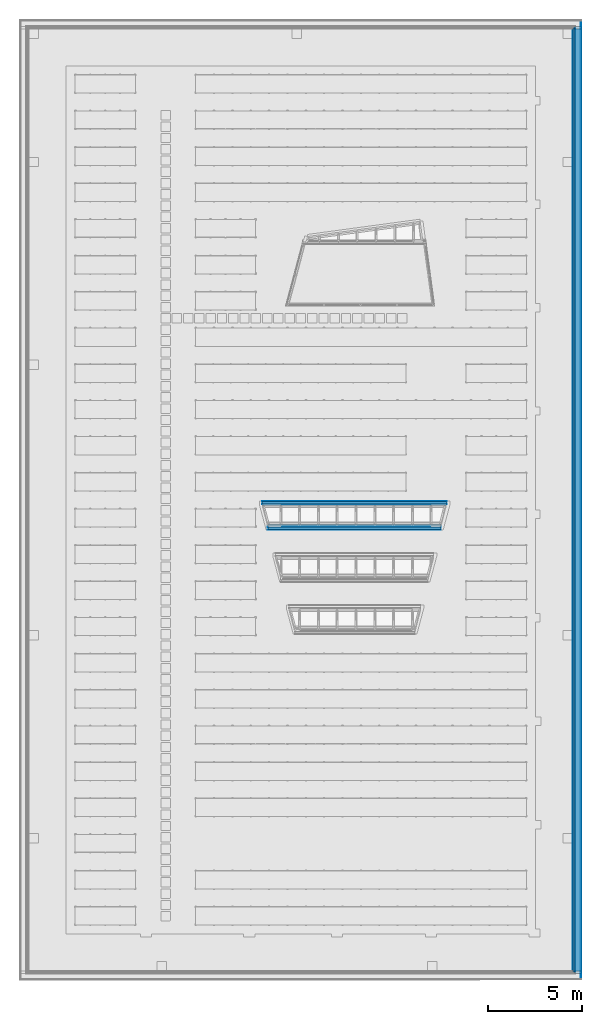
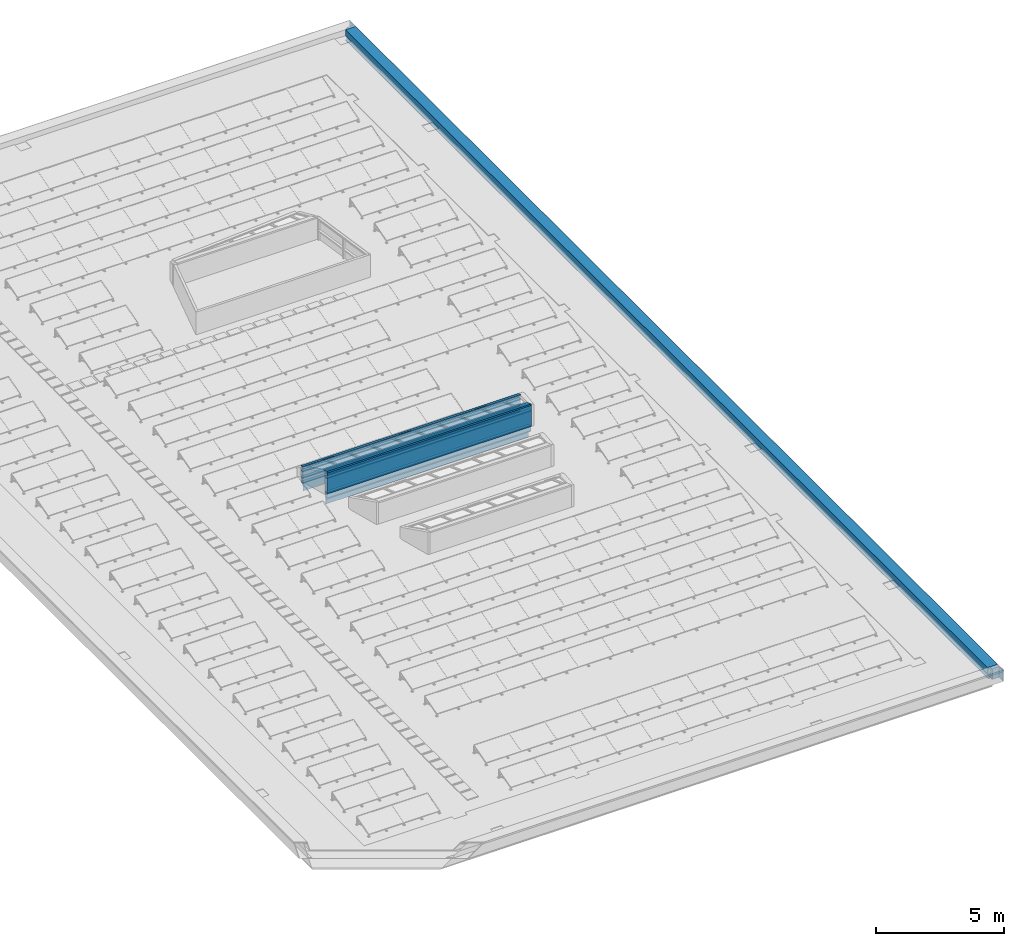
# One storey, part 12 of 20: 29 building element parts, 3 elements without a shape of their own.
"""IFC2X3 building model written with IfcOpenShell, lengths in millimetres."""

from ifc_helpers import new_model, entity, si_unit, converted_unit, derived_unit, money_unit, direction, frame, origin_with_axes, place, context, subcontext, project, spatial, faceted_brep, material, type_object, element, aggregate, save


model = new_model("IFC2X3")

# Units and contexts
model_context = context("Model", 3, precision=0.01, world=origin_with_axes(), true_north=direction((0.0, 1.0)))
plan_context = context("Plan", 3, precision=0.01, world=origin_with_axes(), true_north=direction((0.0, 1.0)))
body_context = subcontext(model_context, "Body", "Model", "MODEL_VIEW")
ifc_project = project(units=[si_unit("LENGTHUNIT", "METRE", prefix="MILLI"), si_unit("AREAUNIT", "SQUARE_METRE"), si_unit("VOLUMEUNIT", "CUBIC_METRE"), converted_unit("PLANEANGLEUNIT", "DEGREE", entity("IfcPlaneAngleMeasure", 0.0174532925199), si_unit("PLANEANGLEUNIT", "RADIAN"), dimensions=[0, 0, 0, 0, 0, 0, 0]), si_unit("SOLIDANGLEUNIT", "STERADIAN"), money_unit("EUR"), converted_unit("TIMEUNIT", "Year", entity("IfcTimeMeasure", 31556926.0), si_unit("TIMEUNIT", "SECOND"), dimensions=[0, 0, 1, 0, 0, 0, 0]), si_unit("MASSUNIT", "GRAM", prefix="KILO"), si_unit("THERMODYNAMICTEMPERATUREUNIT", "DEGREE_CELSIUS"), si_unit("LUMINOUSINTENSITYUNIT", "LUMEN"), si_unit("ENERGYUNIT", "JOULE", prefix="MEGA"), derived_unit("THERMALCONDUCTANCEUNIT", [(si_unit("POWERUNIT", "WATT"), 1), (si_unit("LENGTHUNIT", "METRE"), -1), (si_unit("THERMODYNAMICTEMPERATUREUNIT", "KELVIN"), -1)]), derived_unit("SPECIFICHEATCAPACITYUNIT", [(si_unit("ENERGYUNIT", "JOULE"), 1), (si_unit("MASSUNIT", "GRAM", prefix="KILO"), -1), (si_unit("THERMODYNAMICTEMPERATUREUNIT", "KELVIN"), -1)]), derived_unit("MASSDENSITYUNIT", [(si_unit("MASSUNIT", "GRAM", prefix="KILO"), 1), (si_unit("VOLUMEUNIT", "CUBIC_METRE"), -1)])], contexts=[model_context, plan_context])

# Site, building, storey
site_placement = place(None, origin_with_axes())
site = spatial("IfcSite", under=ifc_project, at=site_placement, Name="Site", CompositionType="ELEMENT")
building_placement = place(site_placement, origin_with_axes())
building = spatial("IfcBuilding", under=site, at=building_placement, Name="Naam gebouw", CompositionType="ELEMENT")
storey_placement = place(building_placement, frame((0.0, 0.0, 7920.0), z_axis=(0.0, 0.0, 1.0), x_axis=(1.0, 0.0, 0.0)))
storey = spatial("IfcBuildingStorey", under=building, at=storey_placement, Name="2e verdieping", CompositionType="ELEMENT", Elevation=7920.0)

# Wall, building element parts
wall_type = type_object("IfcWallType", Name="_TenW_27_dakrand_01 473 x 542", PredefinedType="NOTDEFINED")
wall_placement = place(storey_placement, frame((29200.0, 0.0, 0.0), z_axis=(0.0, 0.0, 1.0), x_axis=(0.0, 1.0, 0.0)))
wall = element("IfcWall", 1, at=wall_placement, inside=storey, type_object=wall_type, Name="21_Wand_Wand-x")
ifc_material_1 = material(Name="Membraan - waterdicht")
building_element_part_1_placement = place(wall_placement, origin_with_axes())
building_element_part_1 = element("IfcBuildingElementPart", 2, at=building_element_part_1_placement, material=ifc_material_1, Name="Membraan - waterdicht", context=body_context, shape_type="Brep", body=[
    faceted_brep([(139.429230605, 138.429230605, 245.0), (50260.5707694, 138.429230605, 245.0), (50260.5707694, 138.429230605, 529.388913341), (139.429230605, 138.429230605, 529.388913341), (50260.5707694, 139.429230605, 245.0), (139.429230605, 139.429230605, 245.0), (50260.5707694, 139.429230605, 530.388913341), (50260.5707694, -324.789202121, 530.388913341), (50260.5707694, -324.789202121, 529.388913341), (139.429230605, -324.789202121, 529.388913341), (139.429230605, -324.789202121, 530.388913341), (139.429230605, 139.429230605, 530.388913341)], [[[0, 1, 2, 3]], [[4, 1, 0, 5]], [[1, 4, 6, 7, 8, 2]], [[9, 3, 2, 8]], [[5, 0, 3, 9, 10, 11]], [[4, 5, 11, 6]], [[7, 6, 11, 10]], [[10, 9, 8, 7]]]),
])
ifc_material_2 = material(Name="Hout - Multiplex")
building_element_part_2_placement = place(wall_placement, origin_with_axes())
building_element_part_2 = element("IfcBuildingElementPart", 3, at=building_element_part_2_placement, material=ifc_material_2, Name="Hout - Multiplex", context=body_context, shape_type="Brep", body=[
    faceted_brep([(137.976081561, 119.976074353, 240.0), (50262.0239184, 119.976074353, 240.0), (50262.0239184, 119.976072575, 471.373644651), (137.976081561, 119.976072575, 471.373644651), (50262.0239191, 137.976080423, 240.0), (137.976080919, 137.976079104, 240.0), (50262.0239184, 137.976079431, 509.366893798), (50262.0239184, 119.976080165, 509.366893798), (50262.0239184, 119.976081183, 509.060682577), (137.976081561, 119.976081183, 509.060682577), (137.976081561, 119.976080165, 509.366893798), (137.976081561, 137.976077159, 509.366893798)], [[[0, 1, 2, 3]], [[4, 1, 0, 5]], [[1, 4, 6, 7, 8, 2]], [[8, 9, 3, 2]], [[5, 0, 3, 9, 10, 11]], [[4, 5, 11, 6]], [[7, 6, 11, 10]], [[7, 10, 9, 8]]]),
])
ifc_material_3 = material(Name="Hout C")
building_element_part_3_placement = place(wall_placement, origin_with_axes())
building_element_part_3 = element("IfcBuildingElementPart", 4, at=building_element_part_3_placement, material=ifc_material_3, Name="Hout C", context=body_context, shape_type="Brep", body=[
    faceted_brep([(119.976072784, 18.5136338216, -3.91967791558e-06), (119.976072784, 119.976072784, -3.91967791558e-06), (50280.0239272, 119.976072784, -3.91967791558e-06), (50280.0239272, 18.5136338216, -3.91967791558e-06), (119.976072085, 18.4936521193, 37.9754175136), (119.976072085, 119.976072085, 37.9754175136), (50280.0239279, 119.976072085, 37.9754175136), (50280.0239279, 18.4936521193, 37.9754175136)], [[[0, 1, 2, 3]], [[4, 5, 1, 0]], [[2, 1, 5, 6]], [[3, 2, 6, 7]], [[4, 0, 3, 7]], [[6, 5, 4, 7]]]),
])
building_element_part_4_placement = place(wall_placement, origin_with_axes())
building_element_part_4 = element("IfcBuildingElementPart", 5, at=building_element_part_4_placement, material=ifc_material_3, Name="Hout C", context=body_context, shape_type="Brep", body=[
    faceted_brep([(119.831228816, 119.831228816, 471.373652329), (50280.1687712, 119.831228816, 471.373652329), (50280.1687712, 17.9082871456, 471.373652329), (119.831228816, 17.9082870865, 471.373648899), (119.831233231, 119.831233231, 509.06068655), (50280.1687668, 119.831233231, 509.06068655), (50280.1687668, 17.9082863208, 509.06068655), (119.831233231, 17.9082863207, 509.06068655), (50280.1687648, 17.9082863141, 509.366894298), (50382.0917137, 17.908286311, 509.508760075), (17.9082862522, 17.908286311, 509.508760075), (119.831235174, 17.9082863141, 509.366894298), (119.831235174, 119.831235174, 509.366894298), (50280.1687648, 119.831235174, 509.366893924)], [[[0, 1, 2, 3]], [[0, 4, 5, 1]], [[1, 5, 6, 2]], [[7, 3, 2, 6, 8, 9, 10, 11]], [[4, 0, 3, 7]], [[4, 12, 13, 5]], [[5, 13, 8, 6]], [[8, 13, 9]], [[13, 12, 10, 9]], [[12, 11, 10]], [[12, 4, 7, 11]]]),
])
building_element_part_5_placement = place(wall_placement, origin_with_axes())
building_element_part_5 = element("IfcBuildingElementPart", 6, at=building_element_part_5_placement, material=ifc_material_2, Name="Hout - Multiplex", context=body_context, shape_type="Brep", body=[
    faceted_brep([(17.9082808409, 17.9082808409, 471.373647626), (50382.0917192, 17.9082808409, 471.373647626), (50382.0917192, 1.58033941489e-06, 471.373647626), (17.9082808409, 1.66496505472e-06, 471.373647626), (17.9082862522, 17.9082884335, 509.508760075), (50382.0917137, 17.9082884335, 509.508760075), (50382.0917134, -0.091694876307, 509.483710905), (50382.0917117, -0.0911633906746, 509.060686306), (50382.0917117, 1.66490110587e-06, 509.060682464), (17.9082883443, 1.66489755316e-06, 509.060682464), (17.9082883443, -0.0911633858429, 509.060682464), (17.9082866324, -0.0916948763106, 509.483710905)], [[[0, 1, 2, 3]], [[0, 4, 5, 1]], [[1, 5, 6, 7, 8, 2]], [[9, 3, 2, 8]], [[4, 0, 3, 9, 10, 11]], [[5, 4, 11, 6]], [[11, 10, 7, 6]], [[10, 9, 8, 7]]]),
    faceted_brep([(18354.0, 18.5136353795, 6.13026074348e-07), (18.5136353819, 18.5136353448, 6.65253132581e-05), (18.4936515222, 18.4936515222, 37.9754133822), (50381.5063485, 18.4936515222, 37.9754133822), (50381.4863646, 18.5136353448, 6.65253132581e-05), (39121.7704099, 18.5136353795, 6.14150508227e-07), (50381.4863646, 1.4292306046, 6.65253132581e-05), (39001.7704099, 1.4292306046, 5.98190830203e-07), (18474.0, 1.4292306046, -7.46251060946e-07), (18.5136353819, 1.4292306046, 6.65253132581e-05), (18.5136353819, 0.54649687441, 6.65253132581e-05), (18.4936515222, 0.498929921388, 37.9754133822), (50381.5063485, 0.498929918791, 37.9754133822), (50381.4863646, 0.54649687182, 6.65253132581e-05), (39001.7704099, 0.54649541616, 6.29188257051e-07), (39639.7704099, 0.54649541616, 6.29188257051e-07), (39001.7704099, 1.4292306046, -0.0237269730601), (18474.0, 1.4292306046, -0.023726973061), (18474.0, 0.546495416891, 0.0), (17836.0, 0.546495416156, 6.29188257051e-07), (18474.0, 0.546524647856, -0.024989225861), (39001.7704099, 0.546524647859, -0.024989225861)], [[[0, 1, 2, 3, 4, 5]], [[1, 0, 5, 4, 6, 7, 8, 9]], [[2, 1, 9, 10, 11]], [[3, 2, 11, 12]], [[4, 3, 12, 13, 6]], [[14, 7, 6, 13, 15]], [[16, 17, 8, 7]], [[18, 19, 10, 9, 8]], [[19, 18, 20, 21, 14, 15, 13, 12, 11, 10]], [[21, 16, 7, 14]], [[21, 20, 17, 16]], [[20, 18, 8, 17]]]),
])
ifc_material_4 = material(Name="Isolatie - Glaswol zacht")
building_element_part_6_placement = place(wall_placement, origin_with_axes())
building_element_part_6 = element("IfcBuildingElementPart", 7, at=building_element_part_6_placement, material=ifc_material_4, Name="Isolatie - Glaswol zacht", context=body_context, shape_type="Brep", body=[
    faceted_brep([(50280.0239256, 1.4292306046, 240.0), (50280.0239256, 119.976074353, 240.0), (50280.0239256, 119.976074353, 471.373649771), (50280.0239256, 119.831234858, 471.373649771), (50280.0239256, 1.01675112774e-07, 471.373649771), (50280.0239256, 1.01675112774e-07, 37.9754150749), (50280.0239256, 0.498929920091, 37.9754142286), (50280.0239256, 1.4292306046, 37.9754133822), (119.976074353, 1.4292306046, 240.0), (119.976074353, 119.976074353, 240.0), (119.976074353, 119.976074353, 471.373649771), (119.976074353, 119.831234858, 471.373649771), (119.976074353, 1.0167156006e-07, 471.373649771), (119.976074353, 1.0167156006e-07, 37.9754150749), (119.976074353, 0.498929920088, 37.9754133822), (119.976074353, 1.4292306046, 37.9754133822)], [[[0, 1, 2, 3, 4, 5, 6, 7]], [[1, 0, 8, 9]], [[1, 9, 10, 2]], [[2, 10, 11, 3]], [[3, 11, 12, 4]], [[4, 12, 13, 5]], [[6, 5, 13, 14]], [[15, 7, 6, 14]], [[0, 7, 15, 8]], [[8, 15, 14, 13, 12, 11, 10, 9]]]),
])
building_element_part_7_placement = place(wall_placement, origin_with_axes())
building_element_part_7 = element("IfcBuildingElementPart", 8, at=building_element_part_7_placement, material=ifc_material_4, Name="Isolatie - Glaswol zacht", context=body_context, shape_type="Brep", body=[
    faceted_brep([(1.01675001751e-07, 1.0167156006e-07, 37.9754150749), (50399.9999999, 1.01675112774e-07, 37.9754150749), (50400.0, 0.0, -3.91967791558e-06), (0.0, 0.0, -3.91967791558e-06), (0.0, 0.0, 509.060682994), (50400.0, 0.0, 509.060682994), (50400.0, -304.0, -3.91967791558e-06), (50399.9999999, -304.000000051, 37.9754150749), (0.0, -304.000000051, -3.91967791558e-06), (1.0167502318e-07, -304.000000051, 37.9754150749), (0.0, -304.000000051, 509.060682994), (50400.0, -304.000000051, 509.060682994)], [[[0, 1, 2, 3]], [[0, 4, 5, 1]], [[6, 2, 1, 7]], [[2, 6, 8, 3]], [[9, 0, 3, 8]], [[4, 0, 9, 10]], [[5, 4, 10, 11]], [[1, 5, 11, 7]], [[10, 9, 8, 6, 7, 11]]]),
])
building_element_part_8_placement = place(wall_placement, origin_with_axes())
building_element_part_8 = element("IfcBuildingElementPart", 9, at=building_element_part_8_placement, material=ifc_material_2, Name="Hout - Multiplex", context=body_context, shape_type="Brep", body=[
    faceted_brep([(119.976081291, 119.976079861, 509.06068655), (119.976081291, 119.831234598, 509.06068655), (119.976081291, 119.831234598, 509.366888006), (119.976081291, 119.976079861, 509.366888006), (50280.0239187, 119.976079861, 509.06068655), (50280.0239187, 119.831234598, 509.06068655), (50280.0239187, 119.831234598, 509.366888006), (50262.0239198, 119.828954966, 509.366891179), (137.976080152, 119.828954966, 509.366891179), (137.976080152, 119.976079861, 509.366889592), (50262.0239198, 119.976079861, 509.366889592), (50280.0239187, 119.976079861, 509.366888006), (137.976080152, 17.9109447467, 509.508760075), (50262.0239198, 17.9109447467, 509.508760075), (137.976080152, 137.976080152, 509.366891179), (137.976080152, -323.318138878, 509.508762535), (137.976080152, -323.318138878, 526.546857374), (137.976080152, -277.984633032, 526.546857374), (137.976080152, -277.984633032, 527.060682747), (137.976080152, 137.976080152, 527.060682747), (50262.0239198, 137.976080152, 509.366891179), (50262.0239198, 137.976080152, 527.060682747), (50262.0239198, -277.984633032, 527.060682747), (50262.0239198, -277.984633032, 526.546860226), (50262.0239198, -323.318138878, 526.546857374), (50262.0239198, -323.318138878, 509.508762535), (17.9082862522, 17.9082862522, 509.508761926), (50382.0917137, 17.9082862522, 509.508761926), (50400.0916934, -0.0916913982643, 509.483713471), (-0.0916934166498, -0.0916913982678, 509.483713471), (17.9082862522, -323.318138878, 509.508760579), (-0.0916934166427, -323.318138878, 509.483711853), (-0.0911615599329, -323.318138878, 509.060688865), (50400.0911616, -323.318138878, 509.060688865), (50400.0916934, -323.318138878, 509.483711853), (50382.0917137, -323.318138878, 509.508760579), (-0.0911615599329, -0.0911625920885, 509.060678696), (50400.0911616, -0.091162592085, 509.060678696)], [[[0, 1, 2, 3]], [[1, 0, 4, 5]], [[2, 1, 5, 6, 7, 8]], [[9, 3, 2, 8]], [[0, 3, 9, 10, 11, 4]], [[4, 11, 6, 5]], [[6, 11, 10, 7]], [[12, 8, 7, 13]], [[14, 9, 8, 12, 15, 16, 17, 18, 19]], [[9, 14, 20, 10]], [[10, 20, 21, 22, 23, 24, 25, 13, 7]], [[26, 12, 13, 27, 28, 29]], [[12, 26, 30, 15]], [[31, 32, 33, 34, 35, 25, 24, 16, 15, 30]], [[23, 17, 16, 24]], [[17, 23, 22, 18]], [[21, 19, 18, 22]], [[14, 19, 21, 20]], [[27, 13, 25, 35]], [[28, 27, 35, 34]], [[36, 29, 28, 37]], [[29, 31, 30, 26]], [[29, 36, 32, 31]], [[36, 37, 33, 32]], [[37, 28, 34, 33]]]),
])
ifc_material_5 = material(Name="_TenW_21_Steen - Baksteen")
building_element_part_9_placement = place(wall_placement, origin_with_axes())
building_element_part_9 = element("IfcBuildingElementPart", 10, at=building_element_part_9_placement, material=ifc_material_5, Name="_TenW_21_Steen - Baksteen", context=body_context, shape_type="Brep", body=[
    faceted_brep([(-303.999997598, -303.999997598, -3.91967791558e-06), (-303.999997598, -303.999997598, 509.060682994), (50703.9999976, -303.999997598, 509.060682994), (50703.9999976, -303.999997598, -3.91967791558e-06), (-303.999997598, -324.000000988, -3.91967791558e-06), (-303.999997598, -324.0, 509.060682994), (-303.999997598, -323.318138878, 509.060684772), (50703.9999976, -323.318138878, 509.060684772), (50703.9999976, -324.0, 509.060682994), (50703.9999976, -324.000000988, -3.91967791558e-06)], [[[0, 1, 2, 3]], [[1, 0, 4, 5, 6]], [[2, 1, 6, 7]], [[3, 2, 7, 8, 9]], [[0, 3, 9, 4]], [[5, 4, 9, 8]], [[6, 5, 8, 7]]]),
])
aggregate(wall, [building_element_part_1, building_element_part_2, building_element_part_3, building_element_part_4, building_element_part_5, building_element_part_6, building_element_part_7, building_element_part_8, building_element_part_9])

# Beam, building element parts
beam_type_1 = type_object("IfcBeamType", Name="_TenW_27_lichtstraatrand 01 331 x 1666", PredefinedType="BEAM")
beam_1_placement = place(storey_placement, frame((12854.3838538, 23760.0457643, 0.0), z_axis=(0.0, 0.0, 1.0), x_axis=(0.0, -1.0, 0.0)))
beam_1 = element("IfcBeam", 11, at=beam_1_placement, inside=storey, type_object=beam_type_1, Name="28_Balk_Regenwaterafvoer-x", ObjectType="BEAM")
ifc_material_6 = material(Name="Hout - Multiplex groen")
building_element_part_10_placement = place(beam_1_placement, origin_with_axes())
building_element_part_10 = element("IfcBuildingElementPart", 12, at=building_element_part_10_placement, material=ifc_material_6, Name="Hout - Multiplex groen", context=body_context, shape_type="Brep", body=[
    faceted_brep([(154.991493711, 9202.82819866, 245.0), (139.99969402, 9202.82819866, 245.0), (139.999710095, 9202.82819866, 1315.97099684), (154.955420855, 9202.82819866, 1321.37430351), (139.99969402, 0.0, 245.0), (154.991493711, 0.0, 245.0), (139.999710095, 0.0, 1315.97099684), (154.955420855, 0.0, 1321.37430351)], [[[0, 1, 2, 3]], [[4, 1, 0, 5]], [[1, 4, 6, 2]], [[7, 3, 2, 6]], [[5, 0, 3, 7]], [[4, 5, 7, 6]]]),
])
ifc_material_7 = material(Name="Hout - Multiplex wit")
building_element_part_11_placement = place(beam_1_placement, origin_with_axes())
building_element_part_11 = element("IfcBuildingElementPart", 13, at=building_element_part_11_placement, material=ifc_material_7, Name="Hout - Multiplex wit", context=body_context, shape_type="Brep", body=[
    faceted_brep([(3.85360010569e-06, 9165.02500484, 245.0), (3.85360010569e-06, 9202.82819866, 245.0), (3.85360010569e-06, 9202.82819866, 1265.26127855), (3.85360010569e-06, 0.0, 1265.26127855), (3.85360010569e-06, 0.0, 245.0), (3.85360010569e-06, 27.4479896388, 245.0), (3.85360010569e-06, 27.4479896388, 0.0), (3.85360010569e-06, 9165.02500484, 0.0), (-14.9999970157, 9168.88335388, 245.0), (-14.9999970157, 9202.82819866, 245.0), (-14.9999970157, 9202.82819866, 1260.28052611), (-14.9999970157, 0.0, 1260.28052611), (-14.9999970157, 0.0, 245.0), (-14.9999970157, 23.4287515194, 245.0), (-14.9999970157, 23.4287515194, -340.0), (3.85360010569e-06, 27.4479896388, -340.0), (3.85360010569e-06, 9165.02500484, -340.0), (-14.9999970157, 9168.88335388, -340.0)], [[[0, 1, 2, 3, 4, 5, 6, 7]], [[8, 9, 1, 0]], [[1, 9, 10, 2]], [[11, 3, 2, 10]], [[12, 4, 3, 11]], [[5, 4, 12, 13]], [[5, 13, 14, 15, 6]], [[6, 15, 16, 7]], [[8, 0, 7, 16, 17]], [[8, 17, 14, 13, 12, 11, 10, 9]], [[15, 14, 17, 16]]]),
])
ifc_material_8 = material(Name="Metaal - Aluminium")
building_element_part_12_placement = place(beam_1_placement, origin_with_axes())
building_element_part_12 = element("IfcBuildingElementPart", 14, at=building_element_part_12_placement, material=ifc_material_8, Name="Metaal - Aluminium", context=body_context, shape_type="Brep", body=[
    faceted_brep([(163.31299662, 9202.82819866, 1325.52243299), (-91.4527412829, 9202.82819866, 1235.74767224), (-91.4527412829, 0.0, 1235.74767224), (163.31299662, 0.0, 1325.52243299), (163.31299662, 9202.82819866, 1257.83227189), (161.31299662, 9202.82819866, 1257.83227189), (161.31299662, 9202.82819866, 1323.63833662), (-167.391151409, 9202.82819866, 1206.58182347), (-168.062106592, 9202.82819866, 1208.46591984), (-168.062106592, 0.0, 1208.46591984), (-167.391151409, 0.0, 1206.58182347), (161.31299662, 0.0, 1323.63833662), (161.31299662, 0.0, 1257.83227189), (163.31299662, 0.0, 1257.83227189)], [[[0, 1, 2, 3]], [[0, 4, 5, 6, 7, 8, 1]], [[1, 8, 9, 2]], [[3, 2, 9, 10, 11, 12, 13]], [[4, 0, 3, 13]], [[5, 4, 13, 12]], [[6, 5, 12, 11]], [[7, 6, 11, 10]], [[8, 7, 10, 9]]]),
])
ifc_material_9 = material(Name="Isolatie - Kunststof hard")
building_element_part_13_placement = place(beam_1_placement, origin_with_axes())
building_element_part_13 = element("IfcBuildingElementPart", 15, at=building_element_part_13_placement, material=ifc_material_9, Name="Isolatie - Kunststof hard", context=body_context, shape_type="Brep", body=[
    faceted_brep([(2.24951079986e-06, 9202.82819866, 1215.261279), (-1.70548020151e-06, 9202.82819866, 1000.00000178), (-1.70547664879e-06, 0.0, 1000.00000178), (2.24951079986e-06, 0.0, 1215.261279), (139.999708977, 9202.82819866, 1215.1080034), (139.999708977, 9202.82819866, 999.846726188), (139.999708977, 0.0, 999.846726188), (139.999708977, 0.0, 1215.1080034)], [[[0, 1, 2, 3]], [[0, 4, 5, 1]], [[1, 5, 6, 2]], [[3, 2, 6, 7]], [[4, 0, 3, 7]], [[5, 4, 7, 6]]]),
])
building_element_part_14_placement = place(beam_1_placement, origin_with_axes())
building_element_part_14 = element("IfcBuildingElementPart", 16, at=building_element_part_14_placement, material=ifc_material_9, Name="Isolatie - Kunststof hard", context=body_context, shape_type="Brep", body=[
    faceted_brep([(-6.51494147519e-06, 9202.82819866, 950.00000856), (4.06717859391e-06, 9202.82819866, 289.999999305), (4.06717859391e-06, 0.0, 289.999999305), (-6.51494147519e-06, 0.0, 950.00000856), (139.999708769, 9202.82819866, 949.846726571), (139.999708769, 9202.82819866, 289.846727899), (139.999708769, 0.0, 289.846727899), (139.999708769, 0.0, 949.846726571)], [[[0, 1, 2, 3]], [[0, 4, 5, 1]], [[1, 5, 6, 2]], [[3, 2, 6, 7]], [[4, 0, 3, 7]], [[5, 4, 7, 6]]]),
])
building_element_part_15_placement = place(beam_1_placement, origin_with_axes())
building_element_part_15 = element("IfcBuildingElementPart", 17, at=building_element_part_15_placement, material=ifc_material_9, Name="Isolatie - Kunststof hard", context=body_context, shape_type="Brep", body=[
    faceted_brep([(-1.14859233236e-08, 9202.82819866, 240.000005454), (-1.14859233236e-08, 9202.82819866, 49.9999968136), (-1.14859233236e-08, 0.0, 49.9999968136), (-1.14859233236e-08, 0.0, 240.000005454), (139.999708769, 9202.82819866, 239.846731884), (139.999708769, 9202.82819866, 49.8467196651), (139.999708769, 0.0, 49.8467196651), (139.999708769, 0.0, 239.846731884)], [[[0, 1, 2, 3]], [[0, 4, 5, 1]], [[1, 5, 6, 2]], [[3, 2, 6, 7]], [[4, 0, 3, 7]], [[5, 4, 7, 6]]]),
])
building_element_part_16_placement = place(beam_1_placement, origin_with_axes())
building_element_part_16 = element("IfcBuildingElementPart", 18, at=building_element_part_16_placement, material=ifc_material_3, Name="Hout C", context=body_context, shape_type="Brep", body=[
    faceted_brep([(139.999706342, 9202.82819866, -7.5937212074e-07), (0.0, 9202.82819866, -7.5937212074e-07), (0.0, 9202.82819866, 49.9999951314), (139.999708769, 9202.82819866, 49.8467204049), (0.0, 9165.02500583, 0.0), (139.999706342, 0.0, -7.5937212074e-07), (0.0, 0.0, -7.5937212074e-07), (0.0, 27.4479886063, 0.0), (20.0000071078, 32.8069743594, 0.0), (20.0000071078, 9159.88053891, 0.0), (0.0, 0.0, 49.9999951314), (139.999708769, 0.0, 49.8467204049), (20.0000071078, 32.8069743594, -0.021896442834), (20.0000071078, 9159.88053891, -0.021896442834)], [[[0, 1, 2, 3]], [[4, 1, 0, 5, 6, 7, 8, 9]], [[7, 6, 10, 2, 1, 4]], [[11, 3, 2, 10]], [[5, 0, 3, 11]], [[6, 5, 11, 10]], [[7, 12, 8]], [[12, 13, 9, 8]], [[13, 4, 9]], [[12, 7, 4, 13]]]),
])
building_element_part_17_placement = place(beam_1_placement, origin_with_axes())
building_element_part_17 = element("IfcBuildingElementPart", 19, at=building_element_part_17_placement, material=ifc_material_3, Name="Hout C", context=body_context, shape_type="Brep", body=[
    faceted_brep([(139.999706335, 9202.82819866, 239.846725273), (139.999708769, 9202.82819866, 289.846725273), (139.999708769, 0.0, 289.846725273), (139.999706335, 0.0, 239.846725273), (0.0, 9202.82819866, 240.000004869), (0.0, 9202.82819866, 290.0), (0.0, 0.0, 290.0), (0.0, 0.0, 240.000004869)], [[[0, 1, 2, 3]], [[0, 4, 5, 1]], [[1, 5, 6, 2]], [[3, 2, 6, 7]], [[4, 0, 3, 7]], [[5, 4, 7, 6]]]),
])
building_element_part_18_placement = place(beam_1_placement, origin_with_axes())
building_element_part_18 = element("IfcBuildingElementPart", 20, at=building_element_part_18_placement, material=ifc_material_3, Name="Hout C", context=body_context, shape_type="Brep", body=[
    faceted_brep([(139.999706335, 9202.82819866, 949.846725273), (139.999708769, 9202.82819866, 999.846725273), (139.999708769, 0.0, 999.846725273), (139.999706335, 0.0, 949.846725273), (0.0, 9202.82819866, 950.000004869), (0.0, 9202.82819866, 1000.0), (0.0, 0.0, 1000.0), (0.0, 0.0, 950.000004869)], [[[0, 1, 2, 3]], [[0, 4, 5, 1]], [[1, 5, 6, 2]], [[3, 2, 6, 7]], [[4, 0, 3, 7]], [[5, 4, 7, 6]]]),
])
building_element_part_19_placement = place(beam_1_placement, origin_with_axes())
building_element_part_19 = element("IfcBuildingElementPart", 21, at=building_element_part_19_placement, material=ifc_material_3, Name="Hout C", context=body_context, shape_type="Brep", body=[
    faceted_brep([(139.999706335, 9202.82819866, 1215.10799752), (139.999708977, 9202.82819866, 1315.97099805), (139.999708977, 0.0, 1315.97099805), (139.999706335, 0.0, 1215.10799752), (0.0, 9202.82819866, 1215.26127712), (0.0, 9202.82819866, 1265.26127225), (0.0, 0.0, 1265.26127225), (0.0, 0.0, 1215.26127712)], [[[0, 1, 2, 3]], [[0, 4, 5, 1]], [[1, 5, 6, 2]], [[3, 2, 6, 7]], [[4, 0, 3, 7]], [[5, 4, 7, 6]]]),
])
aggregate(beam_1, [building_element_part_10, building_element_part_11, building_element_part_12, building_element_part_13, building_element_part_14, building_element_part_15, building_element_part_16, building_element_part_17, building_element_part_18, building_element_part_19])

beam_type_2 = type_object("IfcBeamType", Name="_TenW_27_lichtstraatrand 02a 232 x 1198", PredefinedType="BEAM")
beam_2_placement = place(storey_placement, frame((12545.7159481, 24990.0000283, 0.0), z_axis=(0.0, 0.0, 1.0), x_axis=(0.0, -1.0, 0.0)))
beam_2 = element("IfcBeam", 22, at=beam_2_placement, inside=storey, type_object=beam_type_2, Name="28_Balk_Regenwaterafvoer-x", ObjectType="BEAM")
building_element_part_20_placement = place(beam_2_placement, origin_with_axes())
building_element_part_20 = element("IfcBuildingElementPart", 23, at=building_element_part_20_placement, material=ifc_material_6, Name="Hout - Multiplex groen", context=body_context, shape_type="Brep", body=[
    faceted_brep([(2.59043915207e-05, 9820.16400994, 832.840020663), (2.59043915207e-05, 9820.16400994, 832.329305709), (2.59043915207e-05, 0.0, 832.329305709), (2.59043915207e-05, 0.0, 832.840020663), (1.55380759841, 9820.16400994, 832.840020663), (1.55380759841, 0.0, 832.840020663)], [[[0, 1, 2, 3]], [[0, 4, 1]], [[1, 4, 5, 2]], [[3, 2, 5]], [[4, 0, 3, 5]]]),
    faceted_brep([(15.0000282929, 9786.20739429, 245.0), (15.0000282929, 9820.16400994, 245.0), (15.0000282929, 9820.16400994, 832.840020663), (15.0000282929, 0.0, 832.840020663), (15.0000282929, 0.0, 245.0), (15.0000282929, 10.5698879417, 245.0), (15.0000282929, 10.5698879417, -340.0), (15.0000282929, 9786.20739429, -340.0), (2.59043915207e-05, 9790.06574372, 245.0), (7.75589370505e-07, 9820.16400994, 245.0), (2.59043915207e-05, 9820.16400994, 827.150461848), (2.59043915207e-05, 9820.16400994, 830.595288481), (6.72472509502, 9820.16400994, 832.840020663), (6.72472509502, 0.0, 832.840020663), (7.75589370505e-07, 0.0, 245.0), (2.59043915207e-05, 0.0, 830.595288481), (2.59043915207e-05, 0.0, 827.150461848), (2.59043915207e-05, 6.55064941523, 245.0), (-9.79995462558e-06, 6.55063984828, 0.0), (-9.79995462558e-06, 6.55063984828, -100.0), (2.50002829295, 7.22052303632, -100.0), (2.50002829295, 7.22052303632, -340.0), (2.50002829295, 9789.42268497, -340.0), (2.50002829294, 9789.42268497, -100.0), (-9.79995462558e-06, 9790.06575291, -100.0), (-9.79995462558e-06, 9790.06575291, 0.0)], [[[0, 1, 2, 3, 4, 5, 6, 7]], [[8, 9, 1, 0]], [[1, 9, 10, 11, 12, 2]], [[12, 13, 3, 2]], [[14, 4, 3, 13, 15, 16]], [[5, 4, 14, 17]], [[5, 17, 18, 19, 20, 21, 6]], [[6, 21, 22, 7]], [[8, 0, 7, 22, 23, 24, 25]], [[8, 25, 18, 17, 14, 16, 10, 9]], [[10, 16, 15, 11]], [[11, 15, 13, 12]], [[24, 19, 18, 25]], [[23, 20, 19, 24]], [[20, 23, 22, 21]]]),
])
building_element_part_21_placement = place(beam_2_placement, origin_with_axes())
building_element_part_21 = element("IfcBuildingElementPart", 24, at=building_element_part_21_placement, material=ifc_material_6, Name="Hout - Multiplex groen", context=body_context, shape_type="Brep", body=[
    faceted_brep([(-139.999989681, 9820.16400994, 245.0), (-154.999987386, 9820.16400994, 245.0), (-154.999987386, 9820.16400994, 777.284595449), (-140.00001365, 9820.16400994, 781.880306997), (-140.00001365, 9820.16400994, 779.648593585), (-154.999987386, 0.0, 245.0), (-139.999989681, 0.0, 245.0), (-154.999987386, 0.0, 777.284595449), (-140.00001365, 0.0, 781.880306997), (-140.00001365, 0.0, 779.648593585)], [[[0, 1, 2, 3, 4]], [[5, 1, 0, 6]], [[1, 5, 7, 2]], [[8, 3, 2, 7]], [[9, 4, 3, 8]], [[6, 0, 4, 9]], [[5, 6, 9, 8, 7]]]),
])
building_element_part_22_placement = place(beam_2_placement, origin_with_axes())
building_element_part_22 = element("IfcBuildingElementPart", 25, at=building_element_part_22_placement, material=ifc_material_8, Name="Metaal - Aluminium", context=body_context, shape_type="Brep", body=[
    faceted_brep([(-157.983405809, 9820.16400994, 712.053752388), (-157.983405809, 9820.16400994, 777.859817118), (-157.983405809, 0.0, 777.859817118), (-157.983405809, 0.0, 712.053752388), (-159.983405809, 9820.16400994, 712.053752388), (-159.983405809, 9820.16400994, 779.743913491), (2.59043915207e-05, 9820.16400994, 832.329305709), (1.55380759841, 9820.16400994, 832.840020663), (14.4590821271, 9820.16400994, 837.081900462), (72.3236044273, 9820.16400994, 858.037880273), (71.6526492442, 9820.16400994, 856.1537839), (13.788126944, 9820.16400994, 835.197804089), (6.72472509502, 9820.16400994, 832.840020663), (2.59043915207e-05, 9820.16400994, 830.595288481), (2.59043915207e-05, 0.0, 830.595288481), (6.72472509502, 0.0, 832.840020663), (13.788126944, 0.0, 835.197804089), (71.6526492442, 0.0, 856.1537839), (72.3236044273, 0.0, 858.037880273), (14.4590821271, 0.0, 837.081900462), (1.55380759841, 0.0, 832.840020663), (2.59043915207e-05, 0.0, 832.329305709), (-159.983405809, 0.0, 779.743913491), (-159.983405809, 0.0, 712.053752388)], [[[0, 1, 2, 3]], [[0, 4, 5, 6, 7, 8, 9, 10, 11, 12, 13, 1]], [[1, 13, 14, 2]], [[3, 2, 14, 15, 16, 17, 18, 19, 20, 21, 22, 23]], [[4, 0, 3, 23]], [[5, 4, 23, 22]], [[6, 5, 22, 21]], [[7, 6, 21, 20]], [[8, 7, 20, 19]], [[9, 8, 19, 18]], [[10, 9, 18, 17]], [[11, 10, 17, 16]], [[12, 11, 16, 15]], [[13, 12, 15, 14]]]),
])
building_element_part_23_placement = place(beam_2_placement, origin_with_axes())
building_element_part_23 = element("IfcBuildingElementPart", 26, at=building_element_part_23_placement, material=ifc_material_9, Name="Isolatie - Kunststof hard", context=body_context, shape_type="Brep", body=[
    faceted_brep([(-140.000023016, 9820.16400994, 601.334221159), (-6.33965058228e-06, 9820.16400994, 601.334221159), (-6.33965058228e-06, 0.0, 601.334221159), (-140.000023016, 0.0, 601.334221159), (-140.000016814, 9820.16400994, 759.453596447), (-6.33965058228e-06, 9820.16400994, 759.453596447), (-6.33965058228e-06, 0.0, 759.453596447), (-140.000016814, 0.0, 759.453596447)], [[[0, 1, 2, 3]], [[0, 4, 5, 1]], [[1, 5, 6, 2]], [[3, 2, 6, 7]], [[4, 0, 3, 7]], [[5, 4, 7, 6]]]),
])
building_element_part_24_placement = place(beam_2_placement, origin_with_axes())
building_element_part_24 = element("IfcBuildingElementPart", 27, at=building_element_part_24_placement, material=ifc_material_9, Name="Isolatie - Kunststof hard", context=body_context, shape_type="Brep", body=[
    faceted_brep([(-4.63924720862e-06, 9820.16400994, 551.33423002), (-140.000023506, 9820.16400994, 551.33423002), (-140.000023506, 0.0, 551.33423002), (-4.63924720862e-06, 0.0, 551.33423002), (0.0, 9820.16400994, 289.999998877), (-140.000032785, 9820.16400994, 289.999998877), (-140.000032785, 0.0, 289.999998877), (0.0, 0.0, 289.999998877)], [[[0, 1, 2, 3]], [[0, 4, 5, 1]], [[1, 5, 6, 2]], [[3, 2, 6, 7]], [[4, 0, 3, 7]], [[5, 4, 7, 6]]]),
])
building_element_part_25_placement = place(beam_2_placement, origin_with_axes())
building_element_part_25 = element("IfcBuildingElementPart", 28, at=building_element_part_25_placement, material=ifc_material_9, Name="Isolatie - Kunststof hard", context=body_context, shape_type="Brep", body=[
    faceted_brep([(-139.999983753, 9820.16400994, 240.000002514), (-140.000030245, 9820.16400994, 49.999996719), (-140.000030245, 0.0, 49.999996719), (-139.999983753, 0.0, 240.000002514), (0.0, 9820.16400994, 240.000002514), (0.0, 9820.16400994, 49.999996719), (0.0, 0.0, 49.999996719), (0.0, 0.0, 240.000002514)], [[[0, 1, 2, 3]], [[0, 4, 5, 1]], [[1, 5, 6, 2]], [[3, 2, 6, 7]], [[4, 0, 3, 7]], [[5, 4, 7, 6]]]),
])
building_element_part_26_placement = place(beam_2_placement, origin_with_axes())
building_element_part_26 = element("IfcBuildingElementPart", 29, at=building_element_part_26_placement, material=ifc_material_3, Name="Hout C", context=body_context, shape_type="Brep", body=[
    faceted_brep([(0.0, 9820.16400994, 289.999999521), (-140.000032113, 9820.16400994, 289.999999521), (-140.000032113, 0.0, 289.999999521), (0.0, 0.0, 289.999999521), (0.0, 9820.16400994, 240.000001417), (-139.999985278, 9820.16400994, 240.000001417), (-139.999985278, 0.0, 240.000001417), (0.0, 0.0, 240.000001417)], [[[0, 1, 2, 3]], [[0, 4, 5, 1]], [[1, 5, 6, 2]], [[3, 2, 6, 7]], [[4, 0, 3, 7]], [[5, 4, 7, 6]]]),
])
building_element_part_27_placement = place(beam_2_placement, origin_with_axes())
building_element_part_27 = element("IfcBuildingElementPart", 30, at=building_element_part_27_placement, material=ifc_material_3, Name="Hout C", context=body_context, shape_type="Brep", body=[
    faceted_brep([(-140.000022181, 9820.16400994, 551.334229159), (-6.18395645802e-06, 9820.16400994, 551.334229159), (-6.18395645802e-06, 0.0, 551.334229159), (-140.000022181, 0.0, 551.334229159), (-140.000022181, 9820.16400994, 601.334221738), (-6.18395645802e-06, 9820.16400994, 601.334221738), (-6.18395645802e-06, 0.0, 601.334221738), (-140.000022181, 0.0, 601.334221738)], [[[0, 1, 2, 3]], [[0, 4, 5, 1]], [[1, 5, 6, 2]], [[3, 2, 6, 7]], [[4, 0, 3, 7]], [[5, 4, 7, 6]]]),
])
building_element_part_28_placement = place(beam_2_placement, origin_with_axes())
building_element_part_28 = element("IfcBuildingElementPart", 31, at=building_element_part_28_placement, material=ifc_material_3, Name="Hout C", context=body_context, shape_type="Brep", body=[
    faceted_brep([(-140.000016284, 9820.16400994, 759.453595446), (-8.28825008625e-06, 9820.16400994, 759.453595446), (-8.28825008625e-06, 0.0, 759.453595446), (-140.000016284, 0.0, 759.453595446), (-140.000016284, 9820.16400994, 779.648589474), (2.34172858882e-05, 9820.16400994, 827.15045314), (2.34172858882e-05, 0.0, 827.15045314), (-140.000016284, 0.0, 779.648589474)], [[[0, 1, 2, 3]], [[0, 4, 5, 1]], [[1, 5, 6, 2]], [[3, 2, 6, 7]], [[4, 0, 3, 7]], [[5, 4, 7, 6]]]),
])
building_element_part_29_placement = place(beam_2_placement, origin_with_axes())
building_element_part_29 = element("IfcBuildingElementPart", 32, at=building_element_part_29_placement, material=ifc_material_3, Name="Hout C", context=body_context, shape_type="Brep", body=[
    faceted_brep([(0.0, 0.0, 49.9999981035), (0.0, 9820.16400994, 49.9999981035), (-140.000032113, 9820.16400994, 49.9999981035), (-140.000032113, 0.0, 49.9999981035), (0.0, 0.0, 0.0), (0.0, 9820.16400994, 0.0), (-139.999985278, 9820.16400994, 0.0), (-139.999985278, 0.0, 0.0)], [[[0, 1, 2, 3]], [[4, 5, 1, 0]], [[2, 1, 5, 6]], [[3, 2, 6, 7]], [[4, 0, 3, 7]], [[7, 6, 5, 4]]]),
])
aggregate(beam_2, [building_element_part_20, building_element_part_21, building_element_part_22, building_element_part_23, building_element_part_24, building_element_part_25, building_element_part_26, building_element_part_27, building_element_part_28, building_element_part_29])

save(model, "model.ifc")
